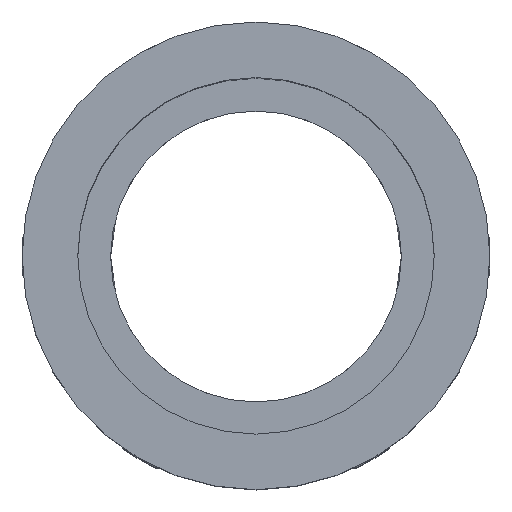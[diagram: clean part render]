
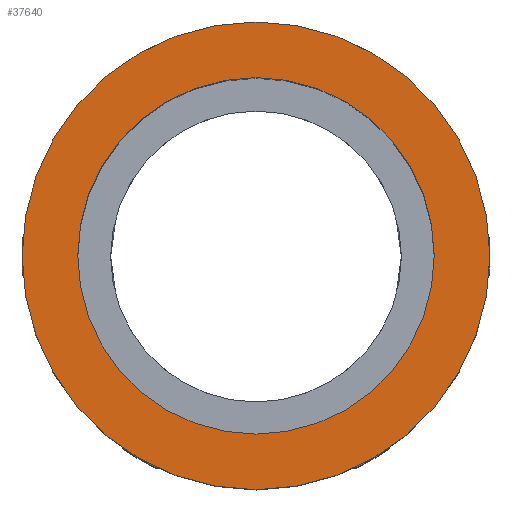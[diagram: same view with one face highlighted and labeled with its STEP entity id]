
A CAD part, top view. The second image highlights one B-rep face of the part: STEP entity #37640.
In plain terms, the highlighted planar face has unit normal (0, 0, 1) as drawn and (-1, 0, 0) by its records, which use the part's own axes.
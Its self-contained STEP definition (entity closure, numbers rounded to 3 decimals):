
#120=CARTESIAN_POINT('',(-44.501,-20.,-17.3));
#130=VERTEX_POINT('',#120);
#290=CARTESIAN_POINT('',(-44.501,-20.,17.3));
#300=VERTEX_POINT('',#290);
#330=CARTESIAN_POINT('',(-44.501,-20.,0.));
#340=DIRECTION('',(-1.,0.,0.));
#350=DIRECTION('',(0.,0.,1.));
#360=AXIS2_PLACEMENT_3D('',#330,#340,#350);
#370=CIRCLE('',#360,17.3);
#380=EDGE_CURVE('',#130,#300,#370,.T.);
#37350=CARTESIAN_POINT('',(-44.501,1.3,0.));
#37360=DIRECTION('',(-1.,0.,0.));
#37370=DIRECTION('',(0.,-1.,0.));
#37380=AXIS2_PLACEMENT_3D('',#37350,#37360,#37370);
#37390=PLANE('',#37380);
#37400=EDGE_CURVE('',#300,#130,#370,.T.);
#37410=ORIENTED_EDGE('',*,*,#37400,.F.);
#37420=ORIENTED_EDGE('',*,*,#380,.F.);
#37430=EDGE_LOOP('',(#37420,#37410));
#37440=FACE_BOUND('',#37430,.T.);
#37450=CARTESIAN_POINT('',(-44.501,-20.,0.));
#37460=DIRECTION('',(-1.,0.,0.));
#37470=DIRECTION('',(0.,-1.,0.));
#37480=AXIS2_PLACEMENT_3D('',#37450,#37460,#37470);
#37490=CIRCLE('',#37480,22.7);
#37500=CARTESIAN_POINT('',(-44.501,2.7,0.));
#37510=VERTEX_POINT('',#37500);
#37520=CARTESIAN_POINT('',(-44.501,-42.7,0.));
#37530=VERTEX_POINT('',#37520);
#37540=EDGE_CURVE('',#37510,#37530,#37490,.T.);
#37550=ORIENTED_EDGE('',*,*,#37540,.T.);
#37560=CARTESIAN_POINT('',(-44.501,-20.,22.7));
#37570=VERTEX_POINT('',#37560);
#37580=EDGE_CURVE('',#37570,#37510,#37490,.T.);
#37590=ORIENTED_EDGE('',*,*,#37580,.T.);
#37600=EDGE_CURVE('',#37530,#37570,#37490,.T.);
#37610=ORIENTED_EDGE('',*,*,#37600,.T.);
#37620=EDGE_LOOP('',(#37610,#37590,#37550));
#37630=FACE_OUTER_BOUND('',#37620,.T.);
#37640=ADVANCED_FACE('',(#37440,#37630),#37390,.T.);
